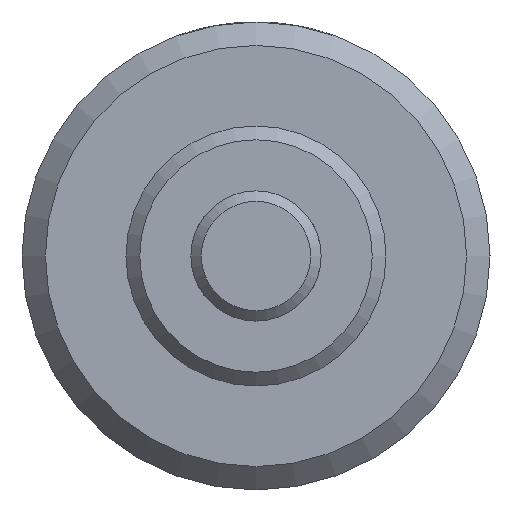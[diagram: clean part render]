
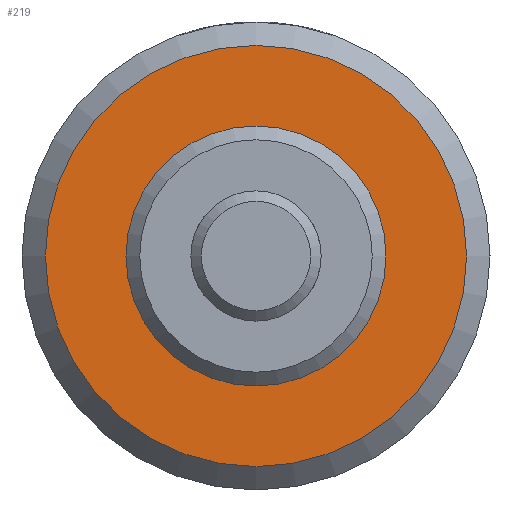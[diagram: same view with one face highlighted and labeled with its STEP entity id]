
A CAD part, left-side view. The second image highlights one B-rep face of the part: STEP entity #219.
In plain terms, the highlighted planar face has unit normal (-1, 0, 0).
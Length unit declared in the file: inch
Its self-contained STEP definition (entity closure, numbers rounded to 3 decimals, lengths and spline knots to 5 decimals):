
#219 = ADVANCED_FACE( '', ( #453, #454 ), #455, .F. );
#453 = FACE_OUTER_BOUND( '', #701, .T. );
#454 = FACE_BOUND( '', #702, .T. );
#455 = PLANE( '', #703 );
#701 = EDGE_LOOP( '', ( #1090 ) );
#702 = EDGE_LOOP( '', ( #1091 ) );
#703 = AXIS2_PLACEMENT_3D( '', #1092, #1093, #1094 );
#1090 = ORIENTED_EDGE( '', *, *, #1249, .F. );
#1091 = ORIENTED_EDGE( '', *, *, #1316, .T. );
#1092 = CARTESIAN_POINT( '', ( 0.5, 0.312, 0. ) );
#1093 = DIRECTION( '', ( 1., 0., 0. ) );
#1094 = DIRECTION( '', ( 0., 0., -1. ) );
#1249 = EDGE_CURVE( '', #1418, #1418, #1419, .T. );
#1316 = EDGE_CURVE( '', #1527, #1527, #1528, .T. );
#1418 = VERTEX_POINT( '', #1665 );
#1419 = CIRCLE( '', #1666, 0.50625 );
#1527 = VERTEX_POINT( '', #1907 );
#1528 = CIRCLE( '', #1908, 0.312 );
#1665 = CARTESIAN_POINT( '', ( 0.5, 0., -0.50625 ) );
#1666 = AXIS2_PLACEMENT_3D( '', #2132, #2133, #2134 );
#1907 = CARTESIAN_POINT( '', ( 0.5, 0., -0.312 ) );
#1908 = AXIS2_PLACEMENT_3D( '', #2224, #2225, #2226 );
#2132 = CARTESIAN_POINT( '', ( 0.5, 0., 0. ) );
#2133 = DIRECTION( '', ( 1., 0., 0. ) );
#2134 = DIRECTION( '', ( 0., 0., -1. ) );
#2224 = CARTESIAN_POINT( '', ( 0.5, 0., 0. ) );
#2225 = DIRECTION( '', ( 1., 0., 0. ) );
#2226 = DIRECTION( '', ( 0., 0., -1. ) );
